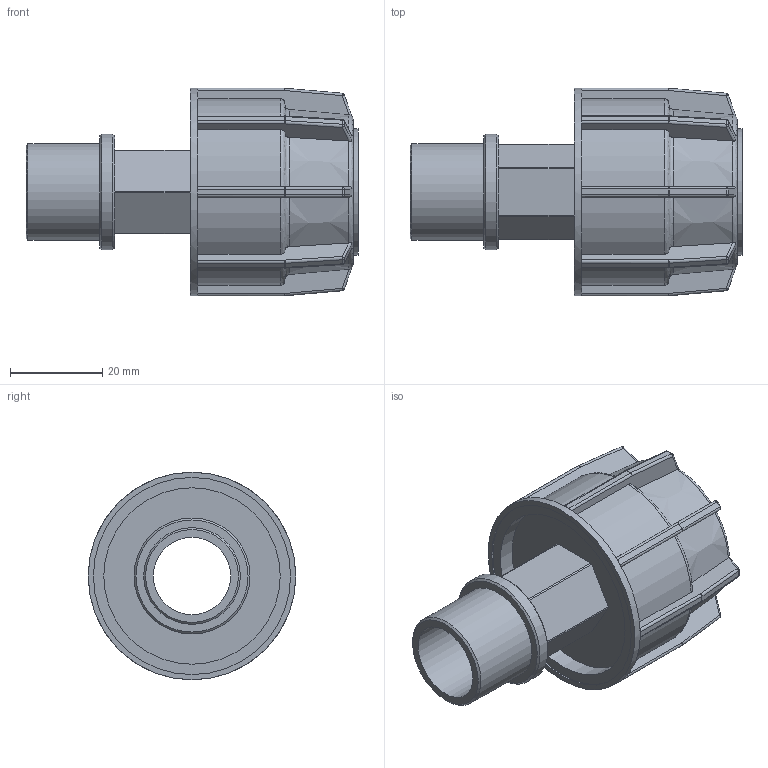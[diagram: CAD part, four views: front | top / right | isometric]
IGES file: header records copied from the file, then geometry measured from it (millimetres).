
Global section: file name: 040207025005.ipt; native system: Autodesk Inventor 2015; preprocessor: unknown; author: KIM; date: 20180409.130626; units: millimetre
Bounding box: 72 x 45 x 45 mm (x, y, z)
Volume: 27774.4 mm3; surface area: 16527 mm2
Topology: 1 solids, 1 shells, 283 faces, 678 edges, 396 vertices
Faces by surface type: plane 142, cylinder 76, sphere 32, revolution 22, cone 11
Full cylindrical faces by diameter (mm): 20.955 x1, 25.146 x1, 27.5 x1, 45 x1
